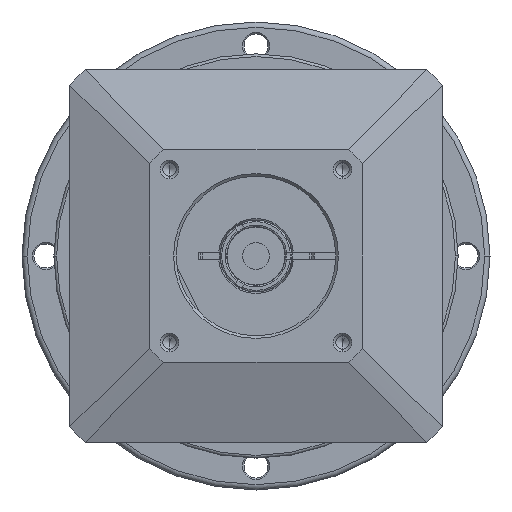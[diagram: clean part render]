
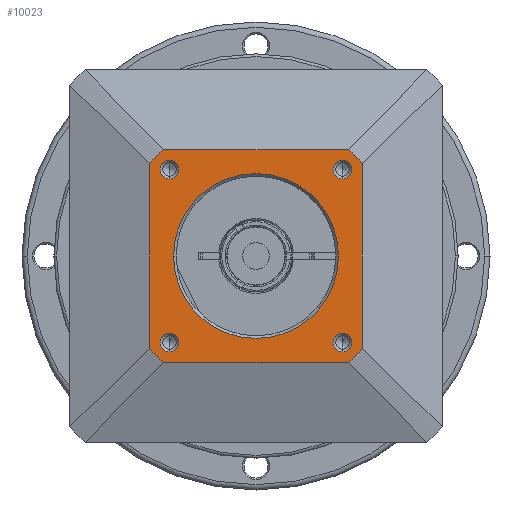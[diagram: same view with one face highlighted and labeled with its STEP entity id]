
A CAD part, left-side view. The second image highlights one B-rep face of the part: STEP entity #10023.
In plain terms, the highlighted planar face has unit normal (-1, 0, 0) as drawn and (0, 0, 1) by its records, which use the part's own axes.
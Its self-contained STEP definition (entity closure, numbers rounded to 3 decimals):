
#8746=CARTESIAN_POINT('',(0.,0.,
25.));
#8747=DIRECTION('',(0.,0.,-1.));
#8748=DIRECTION('',(0.,-1.,0.));
#8749=AXIS2_PLACEMENT_3D('',#8746,#8747,#8748);
#8751=CARTESIAN_POINT('',(0.,0.,
25.));
#8752=DIRECTION('',(0.,0.,-1.));
#8753=DIRECTION('',(0.,1.,0.));
#8754=AXIS2_PLACEMENT_3D('',#8751,#8752,#8753);
#8756=DIRECTION('',(1.,0.,0.));
#8757=VECTOR('',#8756,34.771);
#8758=CARTESIAN_POINT('',(-17.385,20.,25.));
#8759=LINE('',#8758,#8757);
#8760=CARTESIAN_POINT('',(0.,0.,25.));
#8761=DIRECTION('',(0.,0.,1.));
#8762=DIRECTION('',(0.755,0.656,0.));
#8763=AXIS2_PLACEMENT_3D('',#8760,#8761,#8762);
#8765=DIRECTION('',(0.,1.,0.));
#8766=VECTOR('',#8765,34.771);
#8767=CARTESIAN_POINT('',(20.,-17.385,25.));
#8768=LINE('',#8767,#8766);
#8769=DIRECTION('',(1.,0.,0.));
#8770=VECTOR('',#8769,34.771);
#8771=CARTESIAN_POINT('',(-17.385,-20.,25.));
#8772=LINE('',#8771,#8770);
#8773=CARTESIAN_POINT('',(0.,0.,25.));
#8774=DIRECTION('',(0.,0.,1.));
#8775=DIRECTION('',(-0.755,-0.656,0.));
#8776=AXIS2_PLACEMENT_3D('',#8773,#8774,#8775);
#8778=DIRECTION('',(0.,1.,0.));
#8779=VECTOR('',#8778,34.771);
#8780=CARTESIAN_POINT('',(-20.,-17.385,25.));
#8781=LINE('',#8780,#8779);
#8796=CARTESIAN_POINT('',(0.,0.,25.));
#8797=DIRECTION('',(0.,0.,1.));
#8798=DIRECTION('',(-0.656,0.755,0.));
#8799=AXIS2_PLACEMENT_3D('',#8796,#8797,#8798);
#8806=CARTESIAN_POINT('',(0.,0.,25.));
#8807=DIRECTION('',(0.,0.,1.));
#8808=DIRECTION('',(0.656,-0.755,0.));
#8809=AXIS2_PLACEMENT_3D('',#8806,#8807,#8808);
#8823=CARTESIAN_POINT('',(-17.385,20.,25.));
#8915=CARTESIAN_POINT('',(20.,-17.385,25.));
#8943=CARTESIAN_POINT('',(17.385,-20.,25.));
#8983=CARTESIAN_POINT('',(-20.,17.385,25.));
#8992=CARTESIAN_POINT('',(-16.263,16.263,25.));
#8993=DIRECTION('',(0.,0.,1.));
#8994=DIRECTION('',(-1.,0.,0.));
#8995=AXIS2_PLACEMENT_3D('',#8992,#8993,#8994);
#9010=CARTESIAN_POINT('',(-16.263,16.263,25.));
#9011=DIRECTION('',(0.,0.,1.));
#9012=DIRECTION('',(1.,0.,0.));
#9013=AXIS2_PLACEMENT_3D('',#9010,#9011,#9012);
#9046=CARTESIAN_POINT('',(16.263,16.263,25.));
#9047=DIRECTION('',(0.,0.,1.));
#9048=DIRECTION('',(-1.,0.,0.));
#9049=AXIS2_PLACEMENT_3D('',#9046,#9047,#9048);
#9064=CARTESIAN_POINT('',(16.263,16.263,25.));
#9065=DIRECTION('',(0.,0.,1.));
#9066=DIRECTION('',(1.,0.,0.));
#9067=AXIS2_PLACEMENT_3D('',#9064,#9065,#9066);
#9100=CARTESIAN_POINT('',(16.263,-16.263,25.));
#9101=DIRECTION('',(0.,0.,1.));
#9102=DIRECTION('',(-1.,0.,0.));
#9103=AXIS2_PLACEMENT_3D('',#9100,#9101,#9102);
#9118=CARTESIAN_POINT('',(16.263,-16.263,25.));
#9119=DIRECTION('',(0.,0.,1.));
#9120=DIRECTION('',(1.,0.,0.));
#9121=AXIS2_PLACEMENT_3D('',#9118,#9119,#9120);
#9154=CARTESIAN_POINT('',(-16.263,-16.263,25.));
#9155=DIRECTION('',(0.,0.,1.));
#9156=DIRECTION('',(-1.,0.,0.));
#9157=AXIS2_PLACEMENT_3D('',#9154,#9155,#9156);
#9172=CARTESIAN_POINT('',(-16.263,-16.263,25.));
#9173=DIRECTION('',(0.,0.,1.));
#9174=DIRECTION('',(1.,0.,0.));
#9175=AXIS2_PLACEMENT_3D('',#9172,#9173,#9174);
#9328=CARTESIAN_POINT('',(-18.013,16.263,25.));
#9329=CARTESIAN_POINT('',(-14.513,16.263,25.));
#9330=VERTEX_POINT('',#9328);
#9331=VERTEX_POINT('',#9329);
#9354=CARTESIAN_POINT('',(-20.,-17.385,25.));
#9355=CARTESIAN_POINT('',(-17.385,-20.,25.));
#9356=VERTEX_POINT('',#9354);
#9357=VERTEX_POINT('',#9355);
#9358=CARTESIAN_POINT('',(20.,17.385,25.));
#9359=CARTESIAN_POINT('',(17.385,20.,25.));
#9360=VERTEX_POINT('',#9358);
#9361=VERTEX_POINT('',#9359);
#9370=VERTEX_POINT('',#8823);
#9373=VERTEX_POINT('',#8915);
#9374=VERTEX_POINT('',#8943);
#9377=VERTEX_POINT('',#8983);
#9386=CARTESIAN_POINT('',(18.013,16.263,25.));
#9387=CARTESIAN_POINT('',(14.513,16.263,25.));
#9388=VERTEX_POINT('',#9386);
#9389=VERTEX_POINT('',#9387);
#9394=CARTESIAN_POINT('',(18.013,-16.263,25.));
#9395=CARTESIAN_POINT('',(14.513,-16.263,25.));
#9396=VERTEX_POINT('',#9394);
#9397=VERTEX_POINT('',#9395);
#9402=CARTESIAN_POINT('',(-14.513,-16.263,25.));
#9403=CARTESIAN_POINT('',(-18.013,-16.263,25.));
#9404=VERTEX_POINT('',#9402);
#9405=VERTEX_POINT('',#9403);
#9410=CARTESIAN_POINT('',(0.,-15.5,25.));
#9411=CARTESIAN_POINT('',(0.,15.5,25.));
#9412=VERTEX_POINT('',#9410);
#9413=VERTEX_POINT('',#9411);
#9971=CARTESIAN_POINT('',(0.,0.,25.));
#9972=DIRECTION('',(0.,0.,1.));
#9973=DIRECTION('',(1.,0.,0.));
#9974=AXIS2_PLACEMENT_3D('',#9971,#9972,#9973);
#9975=PLANE('',#9974);
#9977=ORIENTED_EDGE('',*,*,#9976,.F.);
#9979=ORIENTED_EDGE('',*,*,#9978,.T.);
#9981=ORIENTED_EDGE('',*,*,#9980,.F.);
#9983=ORIENTED_EDGE('',*,*,#9982,.F.);
#9985=ORIENTED_EDGE('',*,*,#9984,.F.);
#9987=ORIENTED_EDGE('',*,*,#9986,.F.);
#9989=ORIENTED_EDGE('',*,*,#9988,.F.);
#9991=ORIENTED_EDGE('',*,*,#9990,.T.);
#9992=EDGE_LOOP('',(#9977,#9979,#9981,#9983,#9985,#9987,#9989,#9991));
#9993=FACE_OUTER_BOUND('',#9992,.F.);
#9995=ORIENTED_EDGE('',*,*,#9994,.F.);
#9996=ORIENTED_EDGE('',*,*,#9961,.F.);
#9997=EDGE_LOOP('',(#9995,#9996));
#9998=FACE_BOUND('',#9997,.F.);
#10000=ORIENTED_EDGE('',*,*,#9999,.T.);
#10002=ORIENTED_EDGE('',*,*,#10001,.T.);
#10003=EDGE_LOOP('',(#10000,#10002));
#10004=FACE_BOUND('',#10003,.F.);
#10006=ORIENTED_EDGE('',*,*,#10005,.T.);
#10008=ORIENTED_EDGE('',*,*,#10007,.T.);
#10009=EDGE_LOOP('',(#10006,#10008));
#10010=FACE_BOUND('',#10009,.F.);
#10012=ORIENTED_EDGE('',*,*,#10011,.T.);
#10014=ORIENTED_EDGE('',*,*,#10013,.T.);
#10015=EDGE_LOOP('',(#10012,#10014));
#10016=FACE_BOUND('',#10015,.F.);
#10018=ORIENTED_EDGE('',*,*,#10017,.T.);
#10020=ORIENTED_EDGE('',*,*,#10019,.T.);
#10021=EDGE_LOOP('',(#10018,#10020));
#10022=FACE_BOUND('',#10021,.F.);
#10023=ADVANCED_FACE('',(#9993,#9998,#10004,#10010,#10016,#10022),#9975,.T.);
#8750=CIRCLE('',#8749,15.5);
#8755=CIRCLE('',#8754,15.5);
#8764=CIRCLE('',#8763,26.5);
#8777=CIRCLE('',#8776,26.5);
#8800=CIRCLE('',#8799,26.5);
#8810=CIRCLE('',#8809,26.5);
#8996=CIRCLE('',#8995,1.75);
#9014=CIRCLE('',#9013,1.75);
#9050=CIRCLE('',#9049,1.75);
#9068=CIRCLE('',#9067,1.75);
#9104=CIRCLE('',#9103,1.75);
#9122=CIRCLE('',#9121,1.75);
#9158=CIRCLE('',#9157,1.75);
#9176=CIRCLE('',#9175,1.75);
#9961=EDGE_CURVE('',#9413,#9412,#8755,.T.);
#9976=EDGE_CURVE('',#9370,#9377,#8800,.T.);
#9978=EDGE_CURVE('',#9370,#9361,#8759,.T.);
#9980=EDGE_CURVE('',#9360,#9361,#8764,.T.);
#9982=EDGE_CURVE('',#9373,#9360,#8768,.T.);
#9984=EDGE_CURVE('',#9374,#9373,#8810,.T.);
#9986=EDGE_CURVE('',#9357,#9374,#8772,.T.);
#9988=EDGE_CURVE('',#9356,#9357,#8777,.T.);
#9990=EDGE_CURVE('',#9356,#9377,#8781,.T.);
#9994=EDGE_CURVE('',#9412,#9413,#8750,.T.);
#9999=EDGE_CURVE('',#9330,#9331,#8996,.T.);
#10001=EDGE_CURVE('',#9331,#9330,#9014,.T.);
#10005=EDGE_CURVE('',#9389,#9388,#9050,.T.);
#10007=EDGE_CURVE('',#9388,#9389,#9068,.T.);
#10011=EDGE_CURVE('',#9397,#9396,#9104,.T.);
#10013=EDGE_CURVE('',#9396,#9397,#9122,.T.);
#10017=EDGE_CURVE('',#9405,#9404,#9158,.T.);
#10019=EDGE_CURVE('',#9404,#9405,#9176,.T.);
